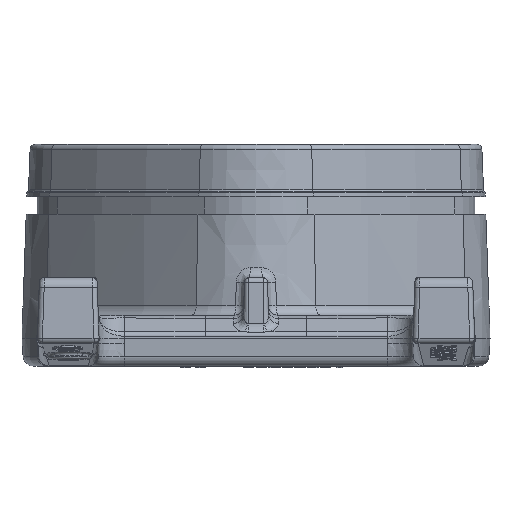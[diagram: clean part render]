
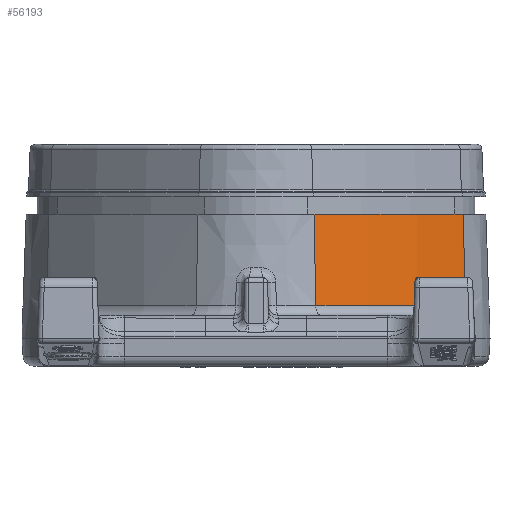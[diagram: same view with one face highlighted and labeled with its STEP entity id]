
A CAD part, left-side view. The second image highlights one B-rep face of the part: STEP entity #56193.
In plain terms, the highlighted conical face has half-angle 2 degrees and reference radius 150 mm.
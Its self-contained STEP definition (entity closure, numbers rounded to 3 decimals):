
#54138=AXIS2_PLACEMENT_3D('Circle Axis2P3D',#54136,#54137,$) ;
#56172=AXIS2_PLACEMENT_3D('Cone Axis2P3D',#56169,#56170,#56171) ;
#56176=AXIS2_PLACEMENT_3D('Circle Axis2P3D',#56174,#56175,$) ;
#53853=CARTESIAN_POINT('Vertex',(-47.309,-41.405,7.232)) ;
#54136=CARTESIAN_POINT('Axis2P3D Location',(48.084,75.,7.43)) ;
#54140=CARTESIAN_POINT('Vertex',(-48.576,-40.345,7.43)) ;
#54142=CARTESIAN_POINT('Vertex',(-74.837,-11.822,7.43)) ;
#54218=CARTESIAN_POINT('Control Point',(-47.309,-41.405,7.232)) ;
#54219=CARTESIAN_POINT('Control Point',(-47.373,-41.351,7.252)) ;
#54220=CARTESIAN_POINT('Control Point',(-47.437,-41.297,7.272)) ;
#54221=CARTESIAN_POINT('Control Point',(-47.502,-41.243,7.29)) ;
#54222=CARTESIAN_POINT('Control Point',(-47.754,-41.033,7.354)) ;
#54223=CARTESIAN_POINT('Control Point',(-48.008,-40.821,7.398)) ;
#54224=CARTESIAN_POINT('Control Point',(-48.197,-40.662,7.419)) ;
#54225=CARTESIAN_POINT('Control Point',(-48.387,-40.504,7.43)) ;
#54226=CARTESIAN_POINT('Control Point',(-48.576,-40.345,7.43)) ;
#56147=CARTESIAN_POINT('Vertex',(-46.904,-40.911,25.5)) ;
#56150=CARTESIAN_POINT('Line Origine',(-47.186,-41.256,12.75)) ;
#56169=CARTESIAN_POINT('Axis2P3D Location',(48.084,75.,21.5)) ;
#56174=CARTESIAN_POINT('Axis2P3D Location',(48.084,75.,25.5)) ;
#56178=CARTESIAN_POINT('Vertex',(-74.322,-11.458,25.5)) ;
#56181=CARTESIAN_POINT('Line Origine',(-74.686,-11.715,12.75)) ;
#54137=DIRECTION('Axis2P3D Direction',(0.,0.,1.)) ;
#56151=DIRECTION('Vector Direction',(-0.022,-0.027,-0.999)) ;
#56170=DIRECTION('Axis2P3D Direction',(-0.,-0.,-1.)) ;
#56171=DIRECTION('Axis2P3D XDirection',(-0.817,-0.577,0.)) ;
#56175=DIRECTION('Axis2P3D Direction',(0.,0.,1.)) ;
#56182=DIRECTION('Vector Direction',(-0.029,-0.02,-0.999)) ;
#56152=VECTOR('Line Direction',#56151,1.) ;
#56183=VECTOR('Line Direction',#56182,1.) ;
#56187=ORIENTED_EDGE('',*,*,#54144,.F.) ;
#56188=ORIENTED_EDGE('',*,*,#54227,.F.) ;
#56189=ORIENTED_EDGE('',*,*,#56154,.T.) ;
#56190=ORIENTED_EDGE('',*,*,#56180,.F.) ;
#56191=ORIENTED_EDGE('',*,*,#56185,.F.) ;
#56193=ADVANCED_FACE('Adapter unbearbeitet',(#56192),#56173,.T.) ;
#54217=B_SPLINE_CURVE_WITH_KNOTS('',5,(#54218,#54219,#54220,#54221,#54222,#54223,#54224,#54225,#54226),.UNSPECIFIED.,.F.,.U.,(6,3,6),(11.384,11.932,13.517),.UNSPECIFIED.) ;
#54139=CIRCLE('generated circle',#54138,150.491) ;
#56177=CIRCLE('generated circle',#56176,149.86) ;
#56173=CONICAL_SURFACE('Cone',#56172,150.,0.035) ;
#54144=EDGE_CURVE('',#54141,#54143,#54139,.F.) ;
#54227=EDGE_CURVE('',#53854,#54141,#54217,.T.) ;
#56154=EDGE_CURVE('',#53854,#56148,#56153,.F.) ;
#56180=EDGE_CURVE('',#56179,#56148,#56177,.T.) ;
#56185=EDGE_CURVE('',#54143,#56179,#56184,.F.) ;
#56186=EDGE_LOOP('',(#56187,#56188,#56189,#56190,#56191)) ;
#56192=FACE_OUTER_BOUND('',#56186,.T.) ;
#56153=LINE('Line',#56150,#56152) ;
#56184=LINE('Line',#56181,#56183) ;
#53854=VERTEX_POINT('',#53853) ;
#54141=VERTEX_POINT('',#54140) ;
#54143=VERTEX_POINT('',#54142) ;
#56148=VERTEX_POINT('',#56147) ;
#56179=VERTEX_POINT('',#56178) ;
